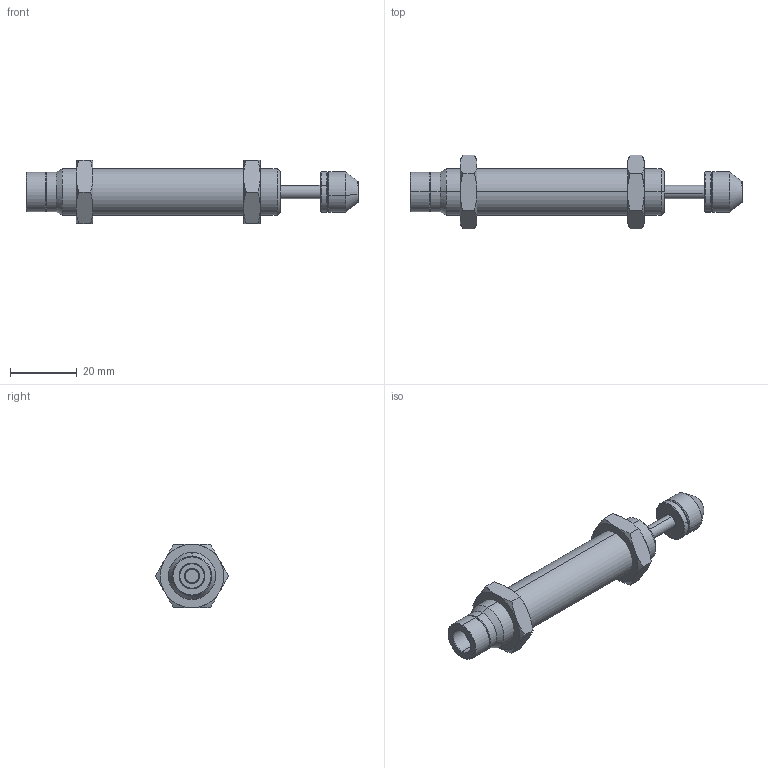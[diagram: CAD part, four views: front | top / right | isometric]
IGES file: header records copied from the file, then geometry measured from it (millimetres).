
Start section: SolidWorks IGES file using analytic representation for surfaces
Global section: file name: D:\IGS跡宒\AC1412.IGS,1; native system: 5HSolidWorks 2013; preprocessor: SolidWorks 2013; author: Administrator; date: 160406.151711; units: inch
Bounding box: 99.2 x 21.94 x 19 mm (x, y, z)
Surface area: 6418.4 mm2 (no closed solid volume)
Topology: 0 solids, 0 shells, 100 faces, 1552 edges, 1552 vertices
Faces by surface type: revolution 74, bspline 26
